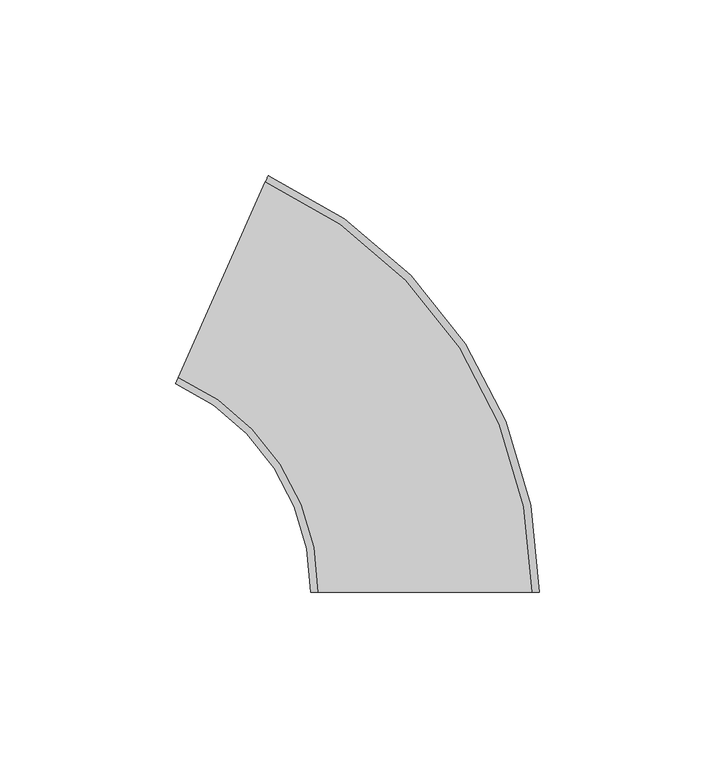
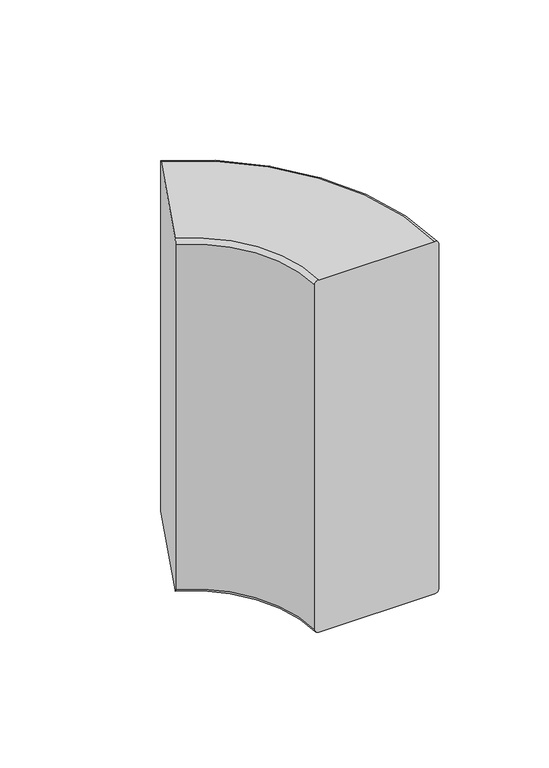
"""IFC4 building model written with IfcOpenShell, lengths in millimetres: duct fitting geometry, Угол внешний переменный от 60° до 120° - для кабель-каналов - белый : Угол внешний переменный от 60° до 120° - для кабель-каналов DLP 65х150/195/220 - 2 секции."""

from ifc_helpers import new_model, si_unit, point, frame, origin, place, context, project, spatial, polyline, circle_curve, ellipse_curve, trimmed, source, transform, mapped, element, save
from ifc_brep_helpers import plane_surface, cylinder_surface, revolved_surface, advanced_brep


def duct_fitting_cda0d10b(model_context):
    return source(origin(), model_context, "Body", "AdvancedBrep", [
        advanced_brep(
        [(-30.5, 0.0, 97.5), (-32.5, 0.0, 95.5), (-32.5, 0.0, -95.5), (-30.5, 0.0, -97.5), (30.5, 0.0, -97.5), (32.5, 0.0, -95.5), (32.5, 0.0, 95.5), (30.5, 0.0, 97.5), (-70.2486449, 61.2075457, 97.5), (-45.4377097, 116.9338186, 97.5), (-44.6242364, 118.7609095, 95.5), (-44.6242364, 118.7609095, -95.5), (-45.4377097, 116.9338186, -97.5), (-70.2486449, 61.2075457, -97.5), (-71.0621182, 59.3804547, -95.5), (-71.0621182, 59.3804547, 95.5)],
        [
            (0, 1, circle_curve(frame((-30.5, 0.0, 95.5), z_axis=(0.0, -1.0, 0.0), x_axis=(-1.0, 0.0, 0.0)), 2.0)),
            (1, 2),
            (2, 3, circle_curve(frame((-30.5, 0.0, -95.5), z_axis=(0.0, -1.0, 0.0), x_axis=(-1.0, 0.0, 0.0)), 2.0)),
            (3, 4),
            (4, 5, circle_curve(frame((30.5, 0.0, -95.5), z_axis=(0.0, -1.0, 0.0), x_axis=(-1.0, 0.0, 0.0)), 2.0)),
            (5, 6),
            (6, 7, circle_curve(frame((30.5, 0.0, 95.5), z_axis=(0.0, -1.0, 0.0), x_axis=(-1.0, 0.0, 0.0)), 2.0)),
            (7, 0),
            (8, 9),
            (9, 10, circle_curve(frame((-45.4377097, 116.9338186, 95.5), z_axis=(-0.913545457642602, 0.40673664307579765, 0.0), x_axis=(-0.40673664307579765, -0.913545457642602, 0.0)), 2.0)),
            (10, 11),
            (11, 12, circle_curve(frame((-45.4377097, 116.9338186, -95.5), z_axis=(-0.913545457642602, 0.40673664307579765, 0.0), x_axis=(-0.40673664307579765, -0.913545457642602, 0.0)), 2.0)),
            (12, 13),
            (13, 14, circle_curve(frame((-70.2486449, 61.2075457, -95.5), z_axis=(-0.913545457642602, 0.40673664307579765, 0.0), x_axis=(-0.40673664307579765, -0.913545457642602, 0.0)), 2.0)),
            (14, 15),
            (15, 8, circle_curve(frame((-70.2486449, 61.2075457, 95.5), z_axis=(-0.913545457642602, 0.40673664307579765, 0.0), x_axis=(-0.40673664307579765, -0.913545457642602, 0.0)), 2.0)),
            (15, 1, circle_curve(frame((-97.5, 0.0, 95.5), z_axis=(0.0, 0.0, -1.0), x_axis=(1.0, 0.0, 0.0)), 65.0)),
            (0, 8, circle_curve(frame((-97.5, 0.0, 97.5), z_axis=(0.0, 0.0, 1.0), x_axis=(1.0, 0.0, 0.0)), 67.0)),
            (14, 2, circle_curve(frame((-97.5, 0.0, -95.5), z_axis=(0.0, 0.0, -1.0), x_axis=(1.0, 0.0, 0.0)), 65.0)),
            (13, 3, circle_curve(frame((-97.5, 0.0, -97.5), z_axis=(0.0, 0.0, -1.0), x_axis=(1.0, 0.0, 0.0)), 67.0)),
            (12, 4, circle_curve(frame((-97.5, 0.0, -97.5), z_axis=(0.0, 0.0, -1.0), x_axis=(1.0, 0.0, 0.0)), 128.0)),
            (11, 5, circle_curve(frame((-97.5, 0.0, -95.5), z_axis=(0.0, 0.0, -1.0), x_axis=(1.0, 0.0, 0.0)), 130.0)),
            (10, 6, circle_curve(frame((-97.5, 0.0, 95.5), z_axis=(0.0, 0.0, -1.0), x_axis=(1.0, 0.0, 0.0)), 130.0)),
            (9, 7, circle_curve(frame((-97.5, 0.0, 97.5), z_axis=(0.0, 0.0, -1.0), x_axis=(1.0, 0.0, 0.0)), 128.0)),
        ],
        [
            plane_surface(frame((0.0, 0.0, 0.0), z_axis=(0.0, -1.0, 0.0), x_axis=(0.0, 0.0, 1.0))),
            plane_surface(frame((-57.8431773, 89.0706821, 0.0), z_axis=(-0.913545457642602, 0.4067366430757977, 0.0), x_axis=(0.0, 0.0, 1.0))),
            revolved_surface(trimmed(ellipse_curve(frame((-30.5, 0.0, 95.5), z_axis=(0.0, -1.0, 0.0), x_axis=(-1.0, 0.0, 0.0)), 2.0, 2.0), [point((-30.5, 0.0, 97.5))], [point((-32.5, 0.0, 95.5))], True, "CARTESIAN"), (-97.5, 0.0, 0.0), (0.0, 0.0, 1.0)),
            revolved_surface(polyline([(-32.5, 0.0, 95.5), (-32.5, 0.0, -95.5)]), (-97.5, 0.0, 0.0), (0.0, 0.0, 1.0)),
            revolved_surface(trimmed(ellipse_curve(frame((-30.5, 0.0, -95.5), z_axis=(0.0, -1.0, 0.0), x_axis=(-1.0, 0.0, 0.0)), 2.0, 2.0), [point((-32.5, 0.0, -95.5))], [point((-30.5, 0.0, -97.5))], True, "CARTESIAN"), (-97.5, 0.0, 0.0), (0.0, 0.0, 1.0)),
            plane_surface(frame((-97.5, 0.0, -97.5), z_axis=(0.0, 0.0, -1.0), x_axis=(1.0, 0.0, 0.0))),
            revolved_surface(trimmed(ellipse_curve(frame((30.5, 0.0, -95.5), z_axis=(0.0, -1.0, 0.0), x_axis=(-1.0, 0.0, 0.0)), 2.0, 2.0), [point((30.5, 0.0, -97.5))], [point((32.5, 0.0, -95.5))], True, "CARTESIAN"), (-97.5, 0.0, 0.0), (0.0, 0.0, 1.0)),
            cylinder_surface(frame((-97.5, 0.0, 0.0), z_axis=(0.0, 0.0, 1.0), x_axis=(1.0, 0.0, 0.0)), 130.0),
            revolved_surface(trimmed(ellipse_curve(frame((30.5, 0.0, 95.5), z_axis=(0.0, -1.0, 0.0), x_axis=(-1.0, 0.0, 0.0)), 2.0, 2.0), [point((32.5, 0.0, 95.5))], [point((30.5, 0.0, 97.5))], True, "CARTESIAN"), (-97.5, 0.0, 0.0), (0.0, 0.0, 1.0)),
            plane_surface(frame((-97.5, 0.0, 97.5), z_axis=(0.0, 0.0, 1.0), x_axis=(1.0, 0.0, 0.0))),
        ],
        [
            (0, [[1, 2, 3, 4, 5, 6, 7, 8]]),
            (1, [[9, 10, 11, 12, 13, 14, 15, 16]]),
            (2, [[17, -1, 18, -16]]),
            (3, [[19, -2, -17, -15]]),
            (4, [[20, -3, -19, -14]]),
            (5, [[21, -4, -20, -13]]),
            (6, [[22, -5, -21, -12]]),
            (7, [[23, -6, -22, -11]]),
            (8, [[24, -7, -23, -10]]),
            (9, [[-18, -8, -24, -9]]),
        ],
    ),
    ])


if __name__ == "__main__":
    model = new_model("IFC4")
    model_context = context("Model", 3, world=origin())
    ifc_project = project(units=[si_unit("LENGTHUNIT", "METRE", prefix="MILLI")], contexts=[model_context])
    site = spatial("IfcSite", under=ifc_project)
    building = spatial("IfcBuilding", under=site)
    placement = place(None, origin())
    duct_fitting_shape = duct_fitting_cda0d10b(model_context)
    element("IfcDuctFitting", 1, ObjectType="Угол внешний переменный от 60° до 120° - для кабель-каналов - белый : Угол внешний переменный от 60° до 120° - для кабель-каналов DLP 65х150/195/220 - 2 секции", at=placement, inside=building, context=model_context, shape_type="MappedRepresentation", body=[
        mapped(duct_fitting_shape, transform((0.0, 0.0, 0.0), x_axis=(1.0, 0.0, 0.0), y_axis=(0.0, 1.0, 0.0), z_axis=(0.0, 0.0, 1.0))),
    ])
    save(model, "model.ifc")
